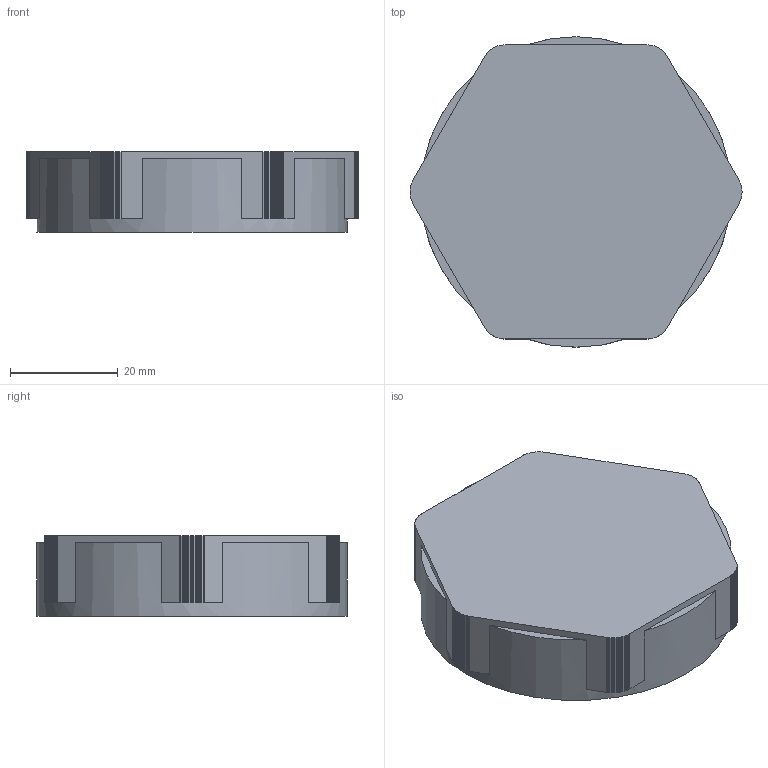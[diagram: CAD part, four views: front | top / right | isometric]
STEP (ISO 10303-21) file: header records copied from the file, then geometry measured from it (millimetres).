
FILE_DESCRIPTION(('Open CASCADE Model'),'2;1');
FILE_NAME('Open CASCADE Shape Model','2026-11-13T04:59:59',('Author'),( 'Open CASCADE'),'Open CASCADE STEP processor 7.9','Open CASCADE 7.9' ,'Unknown');
FILE_SCHEMA(('AUTOMOTIVE_DESIGN { 1 0 10303 214 1 1 1 1 }'));
Length unit declared in the file: millimetre
Products named in the file (1): Open CASCADE STEP translator 7.9 8
Bounding box: 61.6 x 57.6 x 15 mm (x, y, z)
Volume: 12046.8 mm3; surface area: 10639.8 mm2
Topology: 1 solids, 1 shells, 165 faces, 477 edges, 318 vertices
Faces by surface type: plane 158, cylinder 7
Full cylindrical faces by diameter (mm): 50 x1, 51.95 x1, 57.6 x1
Entity records: 11505 total; most frequent: CARTESIAN_POINT 1985, DIRECTION 1734, LINE 1327, VECTOR 1327, ORIENTED_EDGE 954, PCURVE 954, DEFINITIONAL_REPRESENTATION 954, EDGE_CURVE 477
